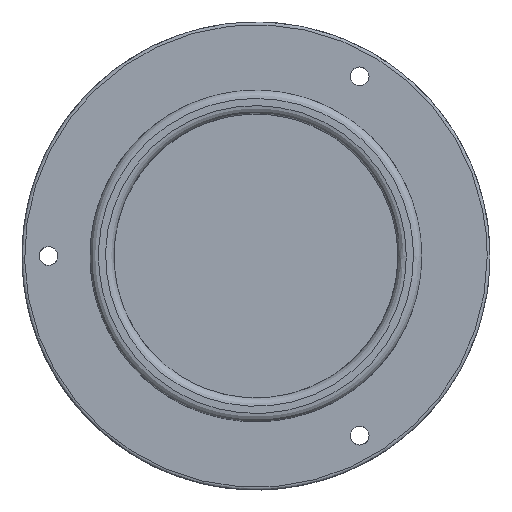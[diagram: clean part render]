
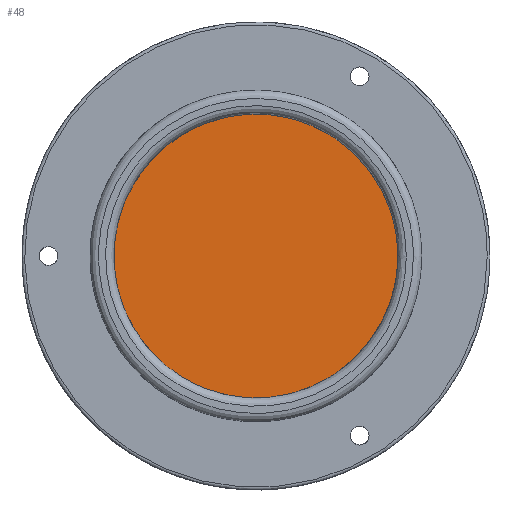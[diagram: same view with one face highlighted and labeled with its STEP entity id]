
A CAD part, top view. The second image highlights one B-rep face of the part: STEP entity #48.
In plain terms, the highlighted planar face has unit normal (0, 0, 1).
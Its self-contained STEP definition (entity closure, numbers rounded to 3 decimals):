
#48=ADVANCED_FACE('',(#75),#361,.T.);
#75=FACE_OUTER_BOUND('',#103,.T.);
#103=EDGE_LOOP('',(#169));
#169=ORIENTED_EDGE('',*,*,#236,.F.);
#236=EDGE_CURVE('',#328,#328,#292,.T.);
#292=(
BOUNDED_CURVE()
B_SPLINE_CURVE(2,(#1106,#1107,#1108,#1109,#1110,#1111,#1112,#1113,#1114),
 .UNSPECIFIED.,.T.,.F.)
B_SPLINE_CURVE_WITH_KNOTS((3,2,2,2,3),(-161.478,-121.108,
-80.739,-40.369,0.),.UNSPECIFIED.)
CURVE()
GEOMETRIC_REPRESENTATION_ITEM()
RATIONAL_B_SPLINE_CURVE((1.,0.707,1.,0.707,1.,0.707,
1.,0.707,1.))
REPRESENTATION_ITEM('')
);
#328=VERTEX_POINT('',#1013);
#361=PLANE('',#407);
#407=AXIS2_PLACEMENT_3D('',#487,#429,$);
#429=DIRECTION('',(0.,0.,1.));
#487=CARTESIAN_POINT('',(-26.214,-26.214,36.));
#1013=CARTESIAN_POINT('',(25.7,0.,36.));
#1106=CARTESIAN_POINT('',(25.7,0.,36.));
#1107=CARTESIAN_POINT('',(25.7,-25.7,36.));
#1108=CARTESIAN_POINT('',(0.,-25.7,36.));
#1109=CARTESIAN_POINT('',(-25.7,-25.7,36.));
#1110=CARTESIAN_POINT('',(-25.7,0.,36.));
#1111=CARTESIAN_POINT('',(-25.7,25.7,36.));
#1112=CARTESIAN_POINT('',(0.,25.7,36.));
#1113=CARTESIAN_POINT('',(25.7,25.7,36.));
#1114=CARTESIAN_POINT('',(25.7,0.,36.));
